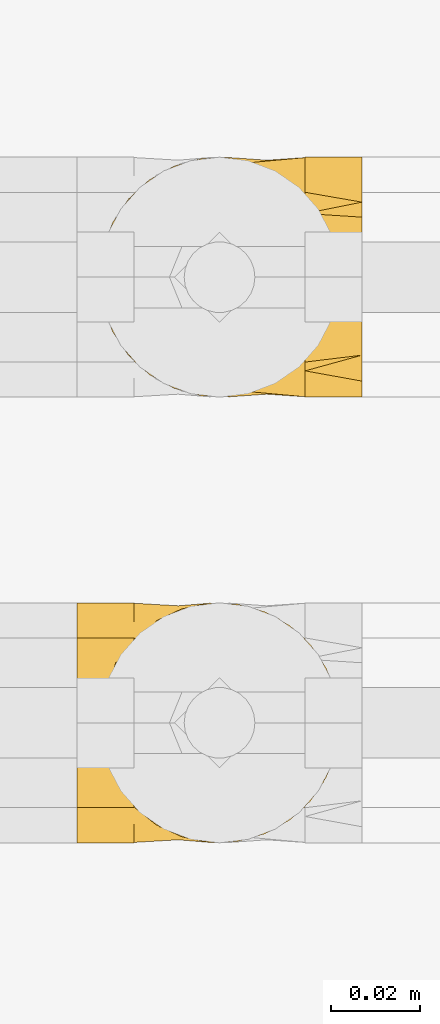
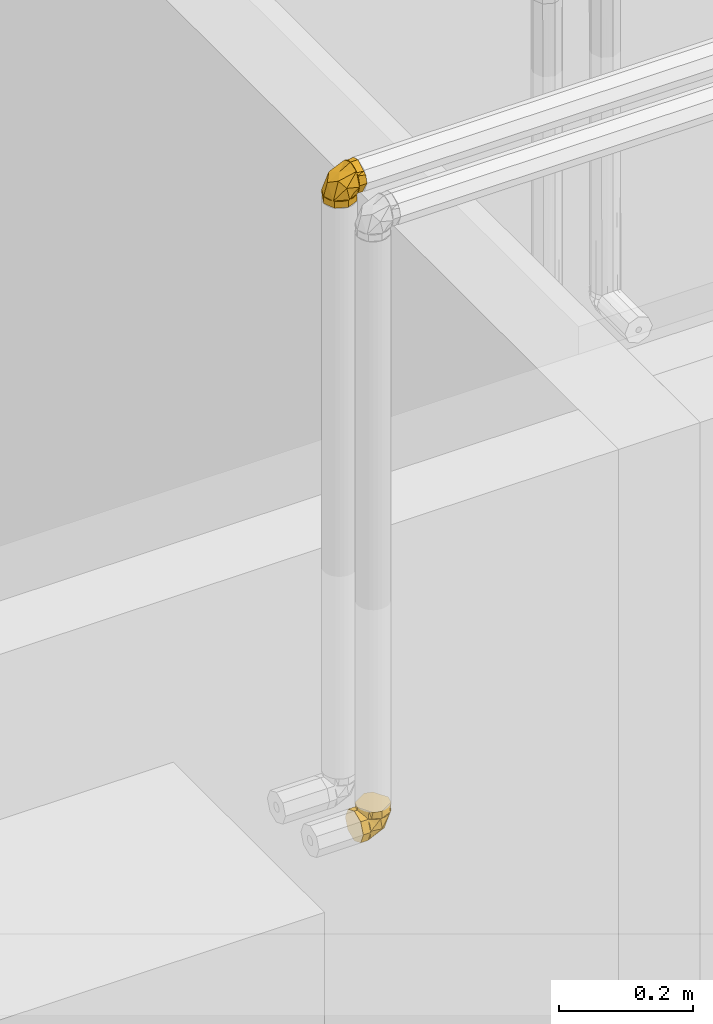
# One storey, part 317 of 652: 2 coverings.
"""IFC2X3 building model written with IfcOpenShell, lengths in millimetres."""

from ifc_helpers import new_model, entity, si_unit, converted_unit, direction, frame, origin, place, context, subcontext, project, spatial, face_set, surface_model, material, type_object, element, save


model = new_model("IFC2X3")

# Units and contexts
model_context = context("Model", 3, precision=0.01, world=frame((0.0, 0.0, 308426.39999999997)), true_north=direction((6.123233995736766e-17, 1.0)))
plan_context = context("Plan", 3, precision=0.01, world=frame((0.0, 0.0, 308426.39999999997)), true_north=direction((6.123233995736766e-17, 1.0)))
body_context = subcontext(model_context, "Body", "Model", "MODEL_VIEW")
ifc_project = project(units=[si_unit("LENGTHUNIT", "METRE", prefix="MILLI"), si_unit("AREAUNIT", "SQUARE_METRE"), si_unit("VOLUMEUNIT", "CUBIC_METRE"), converted_unit("PLANEANGLEUNIT", "DEGREE", entity("IfcPlaneAngleMeasure", 0.017453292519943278), si_unit("PLANEANGLEUNIT", "RADIAN"), dimensions=[0, 0, 0, 0, 0, 0, 0])], contexts=[model_context, plan_context])

# Site, building, storey
site_placement = place(None, origin())
site = spatial("IfcSite", under=ifc_project, at=site_placement, Name="Default", CompositionType="ELEMENT")
building_placement = place(site_placement, origin())
building = spatial("IfcBuilding", under=site, at=building_placement, CompositionType="ELEMENT")
storey_placement = place(building_placement, frame((0.0, 0.0, 1730.6999999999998)))
storey = spatial("IfcBuildingStorey", under=building, at=storey_placement, Name="EG_Produktion_FFB", CompositionType="ELEMENT", Elevation=1730.6999999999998)

# Coverings
ifc_material = material(Name="Dämmung - Armaflex-Schlauch")
covering_type = type_object("IfcCoveringType", Name="Rohrdämmung außen:Armaflex-Schlauch", PredefinedType="INSULATION")
covering_1_placement = place(storey_placement, frame((34673.845660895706, 50393.50378550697, 3768.016249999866)))
element("IfcCovering", 1, at=covering_1_placement, inside=storey, type_object=covering_type, material=ifc_material, Name="Rohrdämmung außen:Armaflex-Schlauch", ObjectType="Rohrdämmung außen:Armaflex-Schlauch", PredefinedType="INSULATION", context=body_context, shape_type="SurfaceModel", body=[
    surface_model("IfcFaceBasedSurfaceModel", [(47.750272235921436, 9.65642195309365, 12.766250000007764), (42.792234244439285, 5.678961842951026, 12.76625000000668), (37.040242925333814, 2.973980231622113, 12.76625000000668), (30.81456370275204, 1.6920879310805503, 12.766250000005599), (24.461836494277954, 1.904659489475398, 12.766250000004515), (18.335775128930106, 3.599859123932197, 12.766250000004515), (12.777472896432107, 6.683299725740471, 12.766250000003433), (8.096410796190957, 10.983298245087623, 12.766250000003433), (4.553225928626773, 16.26043484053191, 12.76625000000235), (2.3451994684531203, 22.220883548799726, 12.76625000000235), (1.5952722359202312, 28.532772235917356, 12.76625000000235), (2.3451994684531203, 34.844660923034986, 12.76625000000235), (4.553225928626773, 40.8051096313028, 12.76625000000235), (8.096410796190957, 46.08224622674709, 12.766250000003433), (12.777472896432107, 50.38224474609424, 12.766250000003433), (18.335775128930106, 53.465685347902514, 12.766250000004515), (24.461836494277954, 55.16088498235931, 12.766250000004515), (30.81456370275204, 55.37345654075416, 12.766250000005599), (37.040242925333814, 54.0915642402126, 12.76625000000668), (42.792234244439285, 51.38658262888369, 12.76625000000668), (47.750272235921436, 47.409122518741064, 12.766250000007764), (47.750272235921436, 5.678961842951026, 17.72428799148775), (47.750272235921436, 2.973980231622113, 23.4762793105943), (47.750272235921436, 1.6920879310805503, 29.70195853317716), (47.7502722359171, 1.904659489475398, 36.05468574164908), (47.7502722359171, 3.599859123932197, 42.18074710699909), (47.7502722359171, 6.683299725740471, 47.73904933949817), (47.7502722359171, 10.983298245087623, 52.420111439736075), (47.7502722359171, 16.26043484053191, 55.96329630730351), (47.7502722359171, 22.220883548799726, 58.171322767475), (47.7502722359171, 28.532772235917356, 58.92125000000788), (47.7502722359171, 34.844660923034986, 58.171322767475), (47.7502722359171, 40.8051096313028, 55.96329630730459), (47.7502722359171, 46.08224622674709, 52.420111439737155), (47.7502722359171, 50.38224474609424, 47.73904933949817), (47.7502722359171, 53.465685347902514, 42.18074710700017), (47.7502722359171, 55.16088498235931, 36.05468574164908), (47.750272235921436, 55.37345654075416, 29.70195853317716), (47.750272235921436, 54.0915642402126, 23.4762793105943), (47.750272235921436, 51.38658262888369, 17.72428799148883), (39.07038524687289, 2.275926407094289, 22.708937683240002), (7.779271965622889, 28.53478871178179, 35.84360107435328), (26.950194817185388, 3.601426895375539, 33.56525177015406), (19.455303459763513, 6.336143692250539, 12.766521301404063), (29.487249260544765, 28.53478871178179, 48.37655700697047), (18.673955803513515, 14.284495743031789, 43.183850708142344), (47.751250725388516, 6.336143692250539, 41.0613058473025), (18.673955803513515, 42.78043080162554, 43.183850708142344), (39.07038524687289, 54.78900013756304, 22.708937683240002), (26.950194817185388, 53.46349964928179, 33.56525177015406), (47.751250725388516, 50.72878285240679, 41.0613058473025), (19.455303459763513, 50.72878285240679, 12.766521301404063), (1.5952722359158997, 28.532772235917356, 0.0), (3.567725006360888, 33.29469446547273, 0.0), (5.540177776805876, 38.05661669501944, 0.0), (7.512630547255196, 42.81853892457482, 0.0), (9.485083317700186, 47.5804611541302, 0.0), (14.247005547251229, 49.552913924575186, 0.0), (19.008927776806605, 51.525366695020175, 0.0), (23.77085000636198, 53.497819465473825, 0.0), (28.532772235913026, 55.47027223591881, 0.0), (33.2946944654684, 53.497819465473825, 0.0), (38.05661669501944, 51.525366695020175, 0.0), (42.81853892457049, 49.552913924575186, 0.0), (47.580461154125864, 47.5804611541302, 0.0), (49.55291392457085, 42.81853892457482, 0.0), (51.525366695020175, 38.05661669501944, 0.0), (53.49781946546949, 33.29469446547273, 0.0), (55.47027223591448, 28.532772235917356, 0.0), (53.49781946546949, 23.77085000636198, 0.0), (51.525366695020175, 19.008927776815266, 0.0), (49.552913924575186, 14.247005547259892, 0.0), (47.580461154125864, 9.485083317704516, 0.0), (42.81853892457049, 7.512630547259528, 0.0), (38.05661669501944, 5.54017777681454, 0.0), (33.2946944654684, 3.567725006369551, 0.0), (28.532772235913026, 1.5952722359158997, 0.0), (23.770850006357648, 3.567725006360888, 0.0), (19.008927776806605, 5.54017777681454, 0.0), (14.247005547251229, 7.512630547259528, 0.0), (9.485083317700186, 9.485083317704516, 0.0), (7.512630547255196, 14.247005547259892, 0.0), (5.540177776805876, 19.008927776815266, 0.0), (3.567725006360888, 23.770850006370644, 0.0), (1.5952722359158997, 28.532772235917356, 12.76625000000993), (3.567725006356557, 23.77085000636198, 12.76625000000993), (5.540177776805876, 19.008927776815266, 12.76625000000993), (7.512630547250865, 14.247005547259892, 12.766250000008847), (9.485083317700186, 9.485083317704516, 12.766250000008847), (15.253472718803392, 7.095738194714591, 12.766250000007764), (21.02186211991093, 4.706393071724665, 12.76625000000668), (28.532772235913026, 1.5952722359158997, 12.766250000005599), (33.29469446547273, 3.567725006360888, 12.766250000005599), (38.05661669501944, 5.54017777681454, 12.766250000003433), (42.81853892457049, 7.512630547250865, 12.76625000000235), (47.580461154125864, 9.485083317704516, 12.76625000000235), (49.96980627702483, 15.253472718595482, 12.76625000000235), (52.359151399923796, 21.021862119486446, 12.766250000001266), (55.47027223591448, 28.532772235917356, 12.766250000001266), (53.49781946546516, 33.29469446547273, 12.766250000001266), (51.525366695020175, 38.05661669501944, 12.766250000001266), (49.552913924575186, 42.81853892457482, 12.76625000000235), (47.580461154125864, 47.5804611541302, 12.76625000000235), (41.8120717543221, 49.96980627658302, 12.766250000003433), (36.043682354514, 52.359151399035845, 12.766250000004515), (28.532772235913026, 55.47027223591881, 12.766250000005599), (23.77085000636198, 53.497819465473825, 12.76625000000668), (19.008927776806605, 51.525366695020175, 12.766250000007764), (14.247005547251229, 49.552913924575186, 12.766250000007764), (9.485083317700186, 47.5804611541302, 12.766250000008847), (7.095738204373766, 41.81207177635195, 12.766250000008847), (4.706393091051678, 36.0436823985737, 12.76625000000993), (60.516522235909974, 28.532772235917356, 58.92125000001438), (60.51652223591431, 22.700632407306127, 55.554062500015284), (60.51652223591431, 16.868492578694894, 52.1868750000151), (60.516522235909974, 11.036352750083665, 48.819687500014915), (60.516522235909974, 5.204212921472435, 45.45250000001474), (60.516522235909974, 3.3997425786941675, 38.718125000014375), (60.516522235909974, 1.5952722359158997, 31.98375000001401), (60.51652223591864, 4.962459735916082, 26.15161017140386), (60.51652223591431, 8.329647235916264, 20.31947034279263), (60.516522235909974, 11.696834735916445, 14.487330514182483), (60.516522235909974, 15.064022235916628, 8.655190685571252), (60.516522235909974, 21.79839723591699, 6.850720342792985), (60.516522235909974, 28.532772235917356, 5.046250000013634), (60.51652223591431, 34.36491206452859, 8.413437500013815), (60.51652223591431, 40.197051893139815, 11.780625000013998), (60.51652223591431, 46.02919172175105, 15.14781250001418), (60.516522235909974, 51.86133155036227, 18.51500000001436), (60.516522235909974, 53.66580189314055, 25.249375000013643), (60.516522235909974, 55.47027223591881, 31.98375000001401), (60.51652223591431, 52.10308473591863, 37.81588982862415), (60.51652223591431, 48.73589723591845, 43.648029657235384), (60.51652223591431, 45.36870973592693, 49.480169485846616), (60.516522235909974, 42.00152223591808, 55.31230931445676), (60.516522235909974, 35.26714723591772, 57.11677965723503), (47.750272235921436, 28.532772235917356, 58.92125000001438), (47.750272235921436, 33.29469446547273, 56.94879722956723), (47.750272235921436, 38.05661669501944, 54.97634445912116), (47.7502722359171, 42.81853892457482, 53.003891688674), (47.750272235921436, 47.5804611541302, 51.03143891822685), (47.750272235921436, 49.552913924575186, 46.26951668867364), (47.750272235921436, 51.525366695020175, 41.507594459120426), (47.750272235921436, 53.497819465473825, 36.74567222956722), (47.750272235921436, 55.47027223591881, 31.98375000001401), (47.750272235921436, 53.497819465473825, 27.2218277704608), (47.750272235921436, 51.525366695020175, 22.459905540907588), (47.750272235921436, 49.552913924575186, 17.697983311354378), (47.750272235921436, 47.5804611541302, 12.936061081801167), (47.750272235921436, 42.81853892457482, 10.963608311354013), (47.750272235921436, 38.05661669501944, 8.99115554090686), (47.750272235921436, 33.29469446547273, 7.018702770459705), (47.750272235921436, 28.532772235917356, 5.046250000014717), (47.750272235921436, 23.770850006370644, 7.018702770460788), (47.750272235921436, 19.008927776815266, 8.99115554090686), (47.75027223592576, 14.247005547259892, 10.963608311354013), (47.750272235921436, 9.485083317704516, 12.936061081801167), (47.750272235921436, 7.512630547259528, 17.697983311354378), (47.750272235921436, 5.54017777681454, 22.459905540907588), (47.75027223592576, 3.567725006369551, 27.2218277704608), (47.750272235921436, 1.5952722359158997, 31.98375000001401), (47.7502722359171, 3.567725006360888, 36.74567222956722), (47.750272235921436, 5.54017777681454, 41.507594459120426), (47.7502722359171, 7.512630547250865, 46.26951668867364), (47.750272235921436, 9.485083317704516, 51.03143891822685), (47.7502722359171, 14.247005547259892, 53.003891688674), (47.750272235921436, 19.008927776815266, 54.97634445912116), (47.7502722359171, 23.77085000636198, 56.94879722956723)], [face_set([[[0, 1, 2, 3, 4, 5, 6, 7, 8, 9, 10, 11, 12, 13, 14, 15, 16, 17, 18, 19]], [[20, 21, 22, 23, 24, 25, 26, 27, 28, 29, 30, 31, 32, 33, 34, 35, 36, 37, 38, 39]], [[0, 40, 3]], [[10, 7, 41]], [[23, 42, 40]], [[42, 7, 43, 3]], [[23, 40, 0]], [[3, 40, 42]], [[44, 41, 45]], [[7, 45, 41]], [[27, 30, 44]], [[44, 45, 27]], [[42, 27, 45]], [[42, 23, 46]], [[7, 42, 45]], [[46, 27, 42]], [[13, 10, 41]], [[33, 47, 44]], [[44, 30, 33]], [[48, 49, 37]], [[49, 33, 50]], [[17, 49, 48]], [[44, 47, 41]], [[20, 48, 37]], [[47, 49, 13]], [[17, 48, 20]], [[41, 47, 13]], [[49, 17, 51, 13]], [[33, 49, 47]], [[50, 37, 49]]]), face_set([[[52, 53, 54, 55, 56, 57, 58, 59, 60, 61, 62, 63, 64, 65, 66, 67, 68, 69, 70, 71, 72, 73, 74, 75, 76, 77, 78, 79, 80, 81, 82, 83]], [[84, 85, 86, 87, 88, 89, 90, 91, 92, 93, 94, 95, 96, 97, 98, 99, 100, 101, 102, 103, 104, 105, 106, 107, 108, 109, 110, 111]], [[111, 110, 109, 56, 55, 54, 53, 52, 84]], [[56, 109, 108, 107, 106, 105, 60, 59, 58, 57]], [[104, 103, 102, 64, 63, 62, 61, 60, 105]], [[64, 102, 101, 100, 99, 98, 68, 67, 66, 65]], [[97, 96, 95, 72, 71, 70, 69, 68, 98]], [[72, 95, 94, 93, 92, 91, 76, 75, 74, 73]], [[90, 89, 88, 80, 79, 78, 77, 76, 91]], [[80, 88, 87, 86, 85, 84, 52, 83, 82, 81]]]), face_set([[[112, 113, 114, 115, 116, 117, 118, 119, 120, 121, 122, 123, 124, 125, 126, 127, 128, 129, 130, 131, 132, 133, 134, 135]], [[136, 137, 138, 139, 140, 141, 142, 143, 144, 145, 146, 147, 148, 149, 150, 151, 152, 153, 154, 155, 156, 157, 158, 159, 160, 161, 162, 163, 164, 165, 166, 167]], [[155, 121, 156]], [[118, 159, 119]], [[159, 158, 119]], [[123, 154, 153]], [[153, 152, 124]], [[121, 155, 122]], [[120, 158, 157]], [[118, 160, 159]], [[158, 120, 119]], [[124, 123, 153]], [[157, 156, 121]], [[155, 154, 122]], [[123, 122, 154]], [[120, 157, 121]], [[163, 115, 164]], [[112, 167, 113]], [[167, 166, 113]], [[117, 162, 161]], [[161, 160, 118]], [[115, 163, 116]], [[114, 166, 165]], [[112, 136, 167]], [[166, 114, 113]], [[118, 117, 161]], [[165, 164, 115]], [[163, 162, 116]], [[117, 116, 162]], [[114, 165, 115]], [[139, 133, 140]], [[130, 143, 131]], [[143, 142, 131]], [[135, 138, 137]], [[137, 136, 112]], [[133, 139, 134]], [[132, 142, 141]], [[130, 144, 143]], [[142, 132, 131]], [[112, 135, 137]], [[141, 140, 133]], [[139, 138, 134]], [[135, 134, 138]], [[132, 141, 133]], [[147, 127, 148]], [[124, 151, 125]], [[151, 150, 125]], [[129, 146, 145]], [[145, 144, 130]], [[127, 147, 128]], [[126, 150, 149]], [[124, 152, 151]], [[150, 126, 125]], [[130, 129, 145]], [[149, 148, 127]], [[147, 146, 128]], [[129, 128, 146]], [[126, 149, 127]]])]),
])
covering_2_placement = place(storey_placement, frame((34670.39468313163, 50293.50378550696, 2671.467227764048)))
element("IfcCovering", 2, at=covering_2_placement, inside=storey, type_object=covering_type, material=ifc_material, Name="Rohrdämmung außen:Armaflex-Schlauch", ObjectType="Rohrdämmung außen:Armaflex-Schlauch", PredefinedType="INSULATION", context=body_context, shape_type="SurfaceModel", body=[
    surface_model("IfcFaceBasedSurfaceModel", [(12.766250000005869, 47.409122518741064, 47.75027223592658), (12.766250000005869, 51.38658262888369, 42.79223424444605), (12.766250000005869, 54.0915642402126, 37.040242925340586), (12.766250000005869, 55.37345654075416, 30.81456370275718), (12.766250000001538, 55.16088498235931, 24.46183649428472), (12.766250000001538, 53.465685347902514, 18.33577512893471), (12.766250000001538, 50.38224474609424, 12.777472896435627), (12.766250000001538, 46.08224622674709, 8.096410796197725), (12.766250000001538, 40.8051096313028, 4.553225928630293), (12.766250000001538, 34.844660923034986, 2.3451994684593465), (12.766250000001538, 28.532772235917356, 1.5952722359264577), (12.766250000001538, 22.220883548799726, 2.3451994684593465), (12.766250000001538, 16.26043484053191, 4.553225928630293), (12.766250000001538, 10.983298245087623, 8.096410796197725), (12.766250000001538, 6.683299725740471, 12.777472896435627), (12.766250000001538, 3.599859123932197, 18.33577512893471), (12.766250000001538, 1.904659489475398, 24.46183649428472), (12.766250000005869, 1.6920879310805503, 30.81456370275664), (12.766250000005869, 2.973980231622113, 37.04024292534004), (12.766250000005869, 5.678961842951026, 42.79223424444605), (12.766250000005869, 9.65642195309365, 47.75027223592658), (17.72428799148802, 5.678961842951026, 47.75027223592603), (23.476279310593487, 2.973980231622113, 47.75027223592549), (29.701958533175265, 1.6920879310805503, 47.75027223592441), (36.05468574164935, 1.904659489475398, 47.75027223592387), (42.180747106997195, 3.599859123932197, 47.750272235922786), (47.739049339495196, 6.683299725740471, 47.750272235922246), (52.420111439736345, 10.983298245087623, 47.750272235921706), (55.96329630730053, 16.26043484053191, 47.750272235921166), (58.17132276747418, 22.220883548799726, 47.750272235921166), (58.92125000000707, 28.532772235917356, 47.750272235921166), (58.17132276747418, 34.844660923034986, 47.750272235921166), (55.96329630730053, 40.8051096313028, 47.750272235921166), (52.420111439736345, 46.08224622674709, 47.750272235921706), (47.739049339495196, 50.38224474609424, 47.750272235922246), (42.180747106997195, 53.465685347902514, 47.750272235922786), (36.05468574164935, 55.16088498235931, 47.75027223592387), (29.701958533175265, 55.37345654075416, 47.75027223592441), (23.476279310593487, 54.0915642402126, 47.75027223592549), (17.72428799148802, 51.38658262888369, 47.75027223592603), (22.708618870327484, 54.790452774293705, 39.06982362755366), (35.84270090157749, 28.531590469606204, 7.7790010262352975), (12.76736520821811, 50.7255846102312, 19.455613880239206), (33.56609567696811, 53.464952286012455, 26.95108659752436), (43.18411325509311, 42.7818834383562, 18.674847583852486), (48.37681955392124, 28.531590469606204, 29.486687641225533), (41.06098703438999, 50.7255846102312, 47.75039842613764), (43.18411325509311, 14.285948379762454, 18.674847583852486), (33.56609567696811, 3.5982286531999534, 26.95108659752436), (22.708618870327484, 2.2773790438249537, 39.06982362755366), (41.06098703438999, 6.337596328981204, 47.75039842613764), (12.76736520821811, 6.337596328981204, 19.455613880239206), (0.0, 28.532772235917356, 1.5952722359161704), (0.0, 23.770850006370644, 3.567725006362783), (0.0, 19.008927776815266, 5.540177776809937), (0.0, 14.247005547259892, 7.512630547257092), (0.0, 9.485083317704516, 9.485083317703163), (0.0, 7.512630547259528, 14.247005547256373), (0.0, 5.54017777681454, 19.008927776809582), (0.0, 3.567725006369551, 23.770850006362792), (0.0, 1.5952722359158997, 28.532772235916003), (0.0, 3.567725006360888, 33.29469446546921), (0.0, 5.54017777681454, 38.05661669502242), (0.0, 7.512630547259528, 42.818538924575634), (0.0, 9.485083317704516, 47.5804611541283), (0.0, 14.247005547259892, 49.552913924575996), (0.0, 19.008927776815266, 51.525366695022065), (0.0, 23.770850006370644, 53.49781946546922), (0.0, 28.532772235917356, 55.470272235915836), (0.0, 33.29469446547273, 53.49781946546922), (0.0, 38.05661669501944, 51.525366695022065), (0.0, 42.818538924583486, 49.552913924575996), (0.0, 47.5804611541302, 47.58046115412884), (0.0, 49.552913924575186, 42.818538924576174), (0.0, 51.525366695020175, 38.05661669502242), (0.0, 53.497819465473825, 33.29469446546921), (0.0, 55.47027223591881, 28.532772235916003), (0.0, 53.49781946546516, 23.770850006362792), (0.0, 51.525366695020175, 19.008927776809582), (0.0, 49.552913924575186, 14.247005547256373), (0.0, 47.5804611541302, 9.485083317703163), (0.0, 42.81853892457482, 7.512630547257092), (0.0, 38.05661669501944, 5.540177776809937), (0.0, 33.29469446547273, 3.567725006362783), (12.766250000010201, 28.532772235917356, 1.5952722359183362), (12.766250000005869, 33.29469446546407, 3.567725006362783), (12.766250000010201, 38.05661669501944, 5.540177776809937), (12.766250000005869, 42.81853892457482, 7.512630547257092), (12.766250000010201, 47.5804611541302, 9.485083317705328), (12.766250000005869, 49.96980627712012, 15.253472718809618), (12.766250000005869, 52.35915140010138, 21.021862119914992), (12.766250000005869, 55.47027223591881, 28.532772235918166), (12.766250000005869, 53.497819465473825, 33.29469446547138), (12.766250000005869, 51.525366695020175, 38.05661669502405), (12.766249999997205, 49.552913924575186, 42.818538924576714), (12.766250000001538, 47.5804611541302, 47.58046115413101), (12.766250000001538, 41.81207175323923, 49.96980627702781), (12.766250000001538, 36.04368235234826, 52.359151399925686), (12.766250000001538, 28.532772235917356, 55.470272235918), (12.766250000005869, 23.770850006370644, 53.49781946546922), (12.766250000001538, 19.008927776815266, 51.52536669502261), (12.766250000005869, 14.247005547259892, 49.552913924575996), (12.766250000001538, 9.485083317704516, 47.58046115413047), (12.766250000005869, 7.095738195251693, 41.81207175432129), (12.766250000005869, 4.706393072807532, 36.04368235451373), (12.766250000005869, 1.5952722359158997, 28.532772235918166), (12.766250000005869, 3.567725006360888, 23.77085000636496), (12.766250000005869, 5.54017777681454, 19.008927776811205), (12.766250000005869, 7.512630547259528, 14.247005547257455), (12.766250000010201, 9.485083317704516, 9.485083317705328), (12.766250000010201, 15.253472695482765, 7.095738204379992), (12.766250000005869, 21.021862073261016, 4.706393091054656), (58.92125000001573, 28.532772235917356, 60.516522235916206), (55.554062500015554, 34.36491206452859, 60.51652223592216), (52.18687500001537, 40.197051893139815, 60.51652223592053), (48.819687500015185, 46.02919172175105, 60.516522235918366), (45.45250000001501, 51.86133155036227, 60.516522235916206), (38.718125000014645, 53.66580189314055, 60.516522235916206), (31.98375000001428, 55.47027223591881, 60.516522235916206), (26.151610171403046, 52.10308473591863, 60.51652223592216), (20.319470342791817, 48.73589723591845, 60.51652223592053), (14.487330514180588, 45.368709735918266, 60.516522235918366), (8.655190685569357, 42.00152223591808, 60.516522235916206), (6.85072034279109, 35.26714723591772, 60.516522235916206), (5.046250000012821, 28.532772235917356, 60.516522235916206), (8.413437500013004, 22.700632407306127, 60.51652223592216), (11.780625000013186, 16.868492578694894, 60.51652223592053), (15.147812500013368, 11.036352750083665, 60.516522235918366), (18.51500000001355, 5.204212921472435, 60.516522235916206), (25.249375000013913, 3.3997425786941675, 60.516522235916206), (31.98375000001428, 1.5952722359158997, 60.516522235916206), (37.81588982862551, 4.962459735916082, 60.51652223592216), (43.64802965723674, 8.329647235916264, 60.51652223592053), (49.480169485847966, 11.696834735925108, 60.516522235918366), (55.3123093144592, 15.064022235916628, 60.516522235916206), (57.116779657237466, 21.79839723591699, 60.516522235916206), (58.921250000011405, 28.532772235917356, 47.75027223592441), (56.948797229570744, 23.77085000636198, 47.75027223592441), (54.97634445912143, 19.008927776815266, 47.75027223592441), (53.003891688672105, 14.247005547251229, 47.75027223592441), (51.03143891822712, 9.485083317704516, 47.75027223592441), (46.26951668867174, 7.512630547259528, 47.75027223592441), (41.507594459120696, 5.54017777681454, 47.75027223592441), (36.74567222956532, 3.567725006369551, 47.75027223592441), (31.98375000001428, 1.5952722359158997, 47.75027223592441), (27.2218277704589, 3.567725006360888, 47.75027223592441), (22.459905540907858, 5.54017777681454, 47.75027223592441), (17.697983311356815, 7.512630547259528, 47.75027223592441), (12.936061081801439, 9.485083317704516, 47.75027223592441), (10.96360831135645, 14.247005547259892, 47.75027223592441), (8.99115554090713, 19.008927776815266, 47.75027223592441), (7.01870277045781, 23.770850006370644, 47.75027223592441), (5.046250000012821, 28.532772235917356, 47.75027223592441), (7.01870277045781, 33.29469446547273, 47.75027223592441), (8.99115554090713, 38.05661669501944, 47.75027223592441), (10.96360831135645, 42.81853892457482, 47.75027223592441), (12.936061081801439, 47.5804611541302, 47.75027223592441), (17.697983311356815, 49.552913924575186, 47.75027223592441), (22.459905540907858, 51.525366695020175, 47.75027223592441), (27.221827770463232, 53.497819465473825, 47.75027223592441), (31.98375000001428, 55.47027223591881, 47.75027223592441), (36.74567222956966, 53.497819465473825, 47.75027223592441), (41.507594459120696, 51.525366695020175, 47.75027223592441), (46.26951668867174, 49.552913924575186, 47.75027223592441), (51.03143891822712, 47.5804611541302, 47.75027223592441), (53.003891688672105, 42.81853892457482, 47.75027223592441), (54.97634445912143, 38.05661669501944, 47.75027223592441), (56.948797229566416, 33.29469446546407, 47.75027223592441)], [face_set([[[0, 1, 2, 3, 4, 5, 6, 7, 8, 9, 10, 11, 12, 13, 14, 15, 16, 17, 18, 19]], [[20, 21, 22, 23, 24, 25, 26, 27, 28, 29, 30, 31, 32, 33, 34, 35, 36, 37, 38, 39]], [[0, 40, 3]], [[10, 7, 41]], [[42, 3, 43]], [[40, 43, 3]], [[37, 40, 0]], [[7, 43, 44]], [[45, 41, 44]], [[7, 44, 41]], [[33, 30, 45]], [[45, 44, 33]], [[43, 33, 44]], [[43, 37, 46]], [[43, 7, 42]], [[37, 43, 40]], [[46, 33, 43]], [[13, 10, 41]], [[27, 47, 45]], [[45, 30, 27]], [[48, 47, 27]], [[49, 48, 23]], [[50, 23, 48, 27]], [[45, 47, 41]], [[20, 49, 23]], [[47, 48, 13]], [[17, 49, 20]], [[41, 47, 13]], [[48, 17, 51]], [[17, 48, 49]], [[51, 13, 48]]]), face_set([[[52, 53, 54, 55, 56, 57, 58, 59, 60, 61, 62, 63, 64, 65, 66, 67, 68, 69, 70, 71, 72, 73, 74, 75, 76, 77, 78, 79, 80, 81, 82, 83]], [[84, 85, 86, 87, 88, 89, 90, 91, 92, 93, 94, 95, 96, 97, 98, 99, 100, 101, 102, 103, 104, 105, 106, 107, 108, 109, 110, 111]], [[111, 110, 109, 56, 55, 54, 53, 52, 84]], [[56, 109, 108, 107, 106, 105, 60, 59, 58, 57]], [[104, 103, 102, 64, 63, 62, 61, 60, 105]], [[64, 102, 101, 100, 99, 98, 68, 67, 66, 65]], [[97, 96, 95, 72, 71, 70, 69, 68, 98]], [[72, 95, 94, 93, 92, 91, 76, 75, 74, 73]], [[90, 89, 88, 80, 79, 78, 77, 76, 91]], [[80, 88, 87, 86, 85, 84, 52, 83, 82, 81]]]), face_set([[[112, 113, 114, 115, 116, 117, 118, 119, 120, 121, 122, 123, 124, 125, 126, 127, 128, 129, 130, 131, 132, 133, 134, 135]], [[136, 137, 138, 139, 140, 141, 142, 143, 144, 145, 146, 147, 148, 149, 150, 151, 152, 153, 154, 155, 156, 157, 158, 159, 160, 161, 162, 163, 164, 165, 166, 167]], [[155, 121, 156]], [[118, 159, 119]], [[159, 158, 119]], [[123, 154, 153]], [[153, 152, 124]], [[121, 155, 122]], [[120, 158, 157]], [[118, 160, 159]], [[158, 120, 119]], [[124, 123, 153]], [[157, 156, 121]], [[155, 154, 122]], [[123, 122, 154]], [[120, 157, 121]], [[163, 115, 164]], [[112, 167, 113]], [[167, 166, 113]], [[117, 162, 161]], [[161, 160, 118]], [[115, 163, 116]], [[114, 166, 165]], [[112, 136, 167]], [[166, 114, 113]], [[118, 117, 161]], [[165, 164, 115]], [[163, 162, 116]], [[117, 116, 162]], [[114, 165, 115]], [[139, 133, 140]], [[130, 143, 131]], [[143, 142, 131]], [[135, 138, 137]], [[137, 136, 112]], [[133, 139, 134]], [[132, 142, 141]], [[130, 144, 143]], [[142, 132, 131]], [[112, 135, 137]], [[141, 140, 133]], [[139, 138, 134]], [[135, 134, 138]], [[132, 141, 133]], [[147, 127, 148]], [[124, 151, 125]], [[151, 150, 125]], [[129, 146, 145]], [[145, 144, 130]], [[127, 147, 128]], [[126, 150, 149]], [[124, 152, 151]], [[150, 126, 125]], [[130, 129, 145]], [[149, 148, 127]], [[147, 146, 128]], [[129, 128, 146]], [[126, 149, 127]]])]),
])

save(model, "model.ifc")
